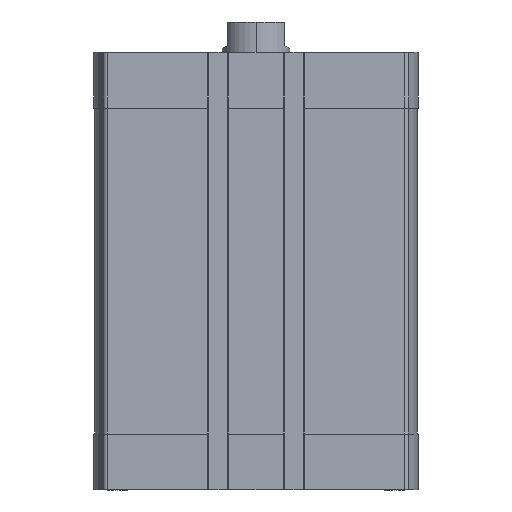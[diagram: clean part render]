
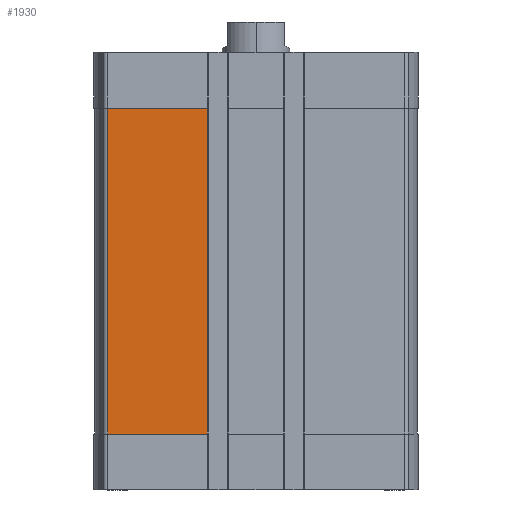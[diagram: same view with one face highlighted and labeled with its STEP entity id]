
A CAD part, left-side view. The second image highlights one B-rep face of the part: STEP entity #1930.
In plain terms, the highlighted planar face has unit normal (-1, 0, 0).
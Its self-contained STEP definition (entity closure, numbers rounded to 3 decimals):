
#318 = EDGE_CURVE ( 'NONE', #728, #8327, #11637, .T. ) ;
#728 = VERTEX_POINT ( 'NONE', #7287 ) ;
#861 = CARTESIAN_POINT ( 'NONE',  ( -47.5, 0., -16.5 ) ) ;
#1114 = VECTOR ( 'NONE', #4516, 1000. ) ;
#1872 = PLANE ( 'NONE',  #4532 ) ;
#1930 = ADVANCED_FACE ( 'NONE', ( #7281 ), #1872, .T. ) ;
#2626 = VECTOR ( 'NONE', #4751, 1000. ) ;
#3259 = CARTESIAN_POINT ( 'NONE',  ( -47.5, 14.3, -112.5 ) ) ;
#4516 = DIRECTION ( 'NONE',  ( 0., 0., 1. ) ) ;
#4532 = AXIS2_PLACEMENT_3D ( 'NONE', #13465, #6886, #7978 ) ;
#4545 = DIRECTION ( 'NONE',  ( 0., 0., -1. ) ) ;
#4751 = DIRECTION ( 'NONE',  ( 0., -1., 0. ) ) ;
#4790 = CARTESIAN_POINT ( 'NONE',  ( -47.5, 43.743, -112.5 ) ) ;
#5895 = LINE ( 'NONE', #8374, #2626 ) ;
#6150 = CARTESIAN_POINT ( 'NONE',  ( -47.5, 43.743, -112.5 ) ) ;
#6853 = VECTOR ( 'NONE', #8168, 1000. ) ;
#6886 = DIRECTION ( 'NONE',  ( -1., 0., 0. ) ) ;
#7019 = EDGE_LOOP ( 'NONE', ( #11408, #14875, #11166, #15273 ) ) ;
#7281 = FACE_OUTER_BOUND ( 'NONE', #7019, .T. ) ;
#7287 = CARTESIAN_POINT ( 'NONE',  ( -47.5, 43.743, -16.5 ) ) ;
#7971 = LINE ( 'NONE', #3259, #1114 ) ;
#7978 = DIRECTION ( 'NONE',  ( 0., 0., 1. ) ) ;
#8168 = DIRECTION ( 'NONE',  ( 0., 1., 0. ) ) ;
#8327 = VERTEX_POINT ( 'NONE', #4790 ) ;
#8374 = CARTESIAN_POINT ( 'NONE',  ( -47.5, 43.743, -112.5 ) ) ;
#11166 = ORIENTED_EDGE ( 'NONE', *, *, #11613, .T. ) ;
#11371 = VERTEX_POINT ( 'NONE', #14558 ) ;
#11408 = ORIENTED_EDGE ( 'NONE', *, *, #11890, .T. ) ;
#11586 = EDGE_CURVE ( 'NONE', #11371, #14541, #7971, .T. ) ;
#11613 = EDGE_CURVE ( 'NONE', #14541, #728, #13412, .T. ) ;
#11637 = LINE ( 'NONE', #6150, #11803 ) ;
#11803 = VECTOR ( 'NONE', #4545, 1000. ) ;
#11890 = EDGE_CURVE ( 'NONE', #8327, #11371, #5895, .T. ) ;
#12241 = CARTESIAN_POINT ( 'NONE',  ( -47.5, 14.3, -16.5 ) ) ;
#13412 = LINE ( 'NONE', #861, #6853 ) ;
#13465 = CARTESIAN_POINT ( 'NONE',  ( -47.5, 43.743, -112.5 ) ) ;
#14541 = VERTEX_POINT ( 'NONE', #12241 ) ;
#14558 = CARTESIAN_POINT ( 'NONE',  ( -47.5, 14.3, -112.5 ) ) ;
#14875 = ORIENTED_EDGE ( 'NONE', *, *, #11586, .T. ) ;
#15273 = ORIENTED_EDGE ( 'NONE', *, *, #318, .T. ) ;
